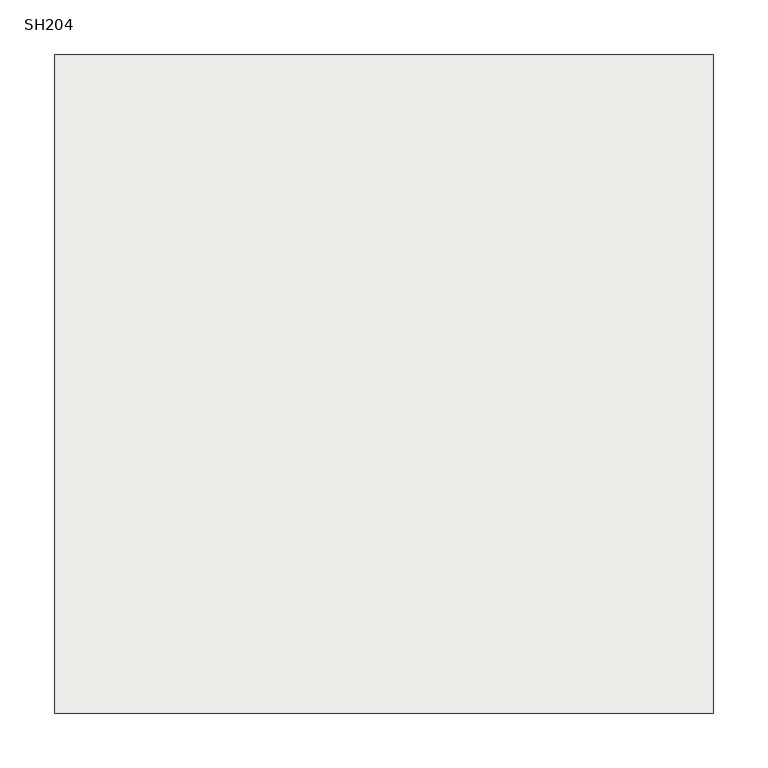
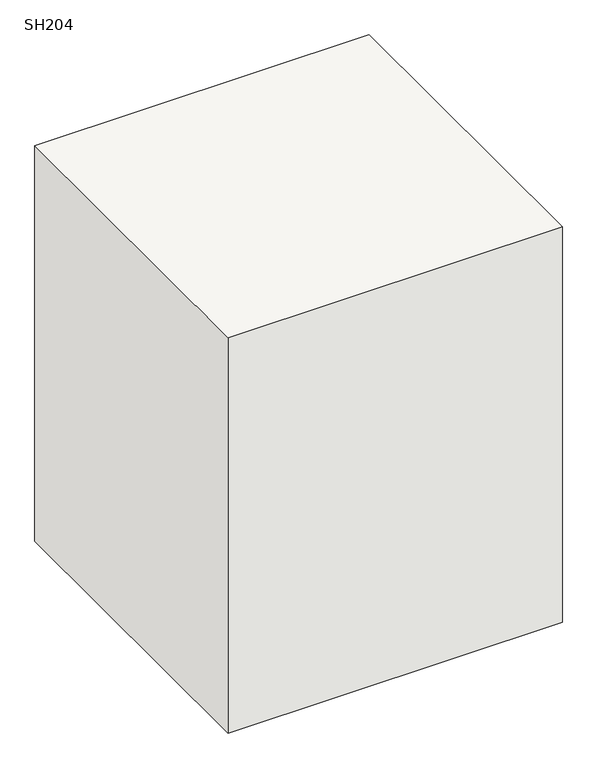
"""IFC4 building model written with IfcOpenShell, lengths in millimetres: slab geometry, 柱形_SH : SH204."""

from ifc_helpers import new_model, si_unit, frame, origin, place, context, project, spatial, polyline, outline, extrude, source, transform, mapped, element, save


def sh204_f7182780(model_context):
    return source(origin(), model_context, "Body", "SweptSolid", [
        extrude(outline(polyline([(300.0, 300.0), (300.0, -300.0), (-300.0, -300.0), (-300.0, 300.0), (300.0, 300.0)])), frame((0.0, 0.0, -750.0), z_axis=(0.0, 0.0, 1.0), x_axis=(1.0, 0.0, 0.0)), (0.0, 0.0, 1.0), 750.0),
    ])


if __name__ == "__main__":
    model = new_model("IFC4")
    model_context = context("Model", 3, world=origin())
    ifc_project = project(units=[si_unit("LENGTHUNIT", "METRE", prefix="MILLI")], contexts=[model_context])
    site = spatial("IfcSite", under=ifc_project)
    building = spatial("IfcBuilding", under=site)
    placement = place(None, origin())
    sh204_shape = sh204_f7182780(model_context)
    element("IfcSlab", 1, ObjectType="柱形_SH : SH204", at=placement, inside=building, context=model_context, shape_type="MappedRepresentation", body=[
        mapped(sh204_shape, transform((0.0, 0.0, 0.0), x_axis=(1.0, 0.0, 0.0), y_axis=(0.0, 1.0, 0.0), z_axis=(0.0, 0.0, 1.0))),
    ])
    save(model, "model.ifc")
